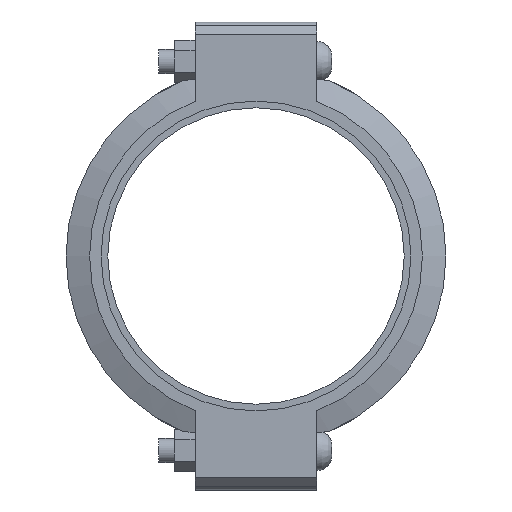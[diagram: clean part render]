
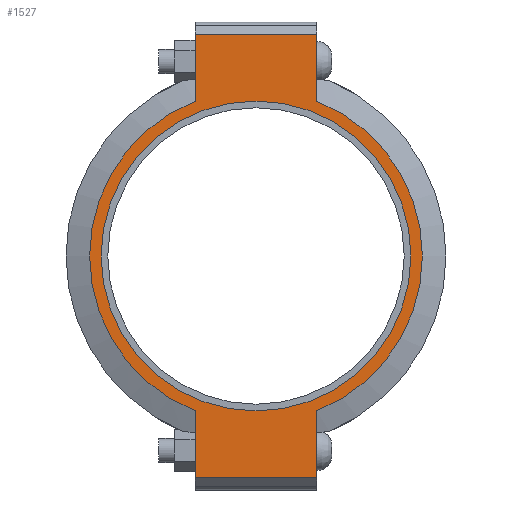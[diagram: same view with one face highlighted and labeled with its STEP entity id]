
A CAD part, left-side view. The second image highlights one B-rep face of the part: STEP entity #1527.
In plain terms, the highlighted planar face has unit normal (-1, 0, 0) as drawn and (0, 0, 1) by its records, which use the part's own axes.
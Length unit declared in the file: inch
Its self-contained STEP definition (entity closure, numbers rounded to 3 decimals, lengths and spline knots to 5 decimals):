
#154=LINE('',#2603,#241);
#165=LINE('',#2654,#252);
#171=LINE('',#2680,#258);
#173=LINE('',#2683,#260);
#174=LINE('',#2688,#261);
#175=LINE('',#2689,#262);
#241=VECTOR('',#2105,0.3937);
#252=VECTOR('',#2136,0.3937);
#258=VECTOR('',#2154,0.3937);
#260=VECTOR('',#2158,0.3937);
#261=VECTOR('',#2163,0.3937);
#262=VECTOR('',#2164,0.3937);
#320=FACE_BOUND('',#479,.T.);
#380=FACE_OUTER_BOUND('',#478,.T.);
#478=EDGE_LOOP('',(#1216,#1217,#1218,#1219,#1220,#1221,#1222,#1223));
#479=EDGE_LOOP('',(#1224));
#584=CIRCLE('',#1772,6.84375);
#585=CIRCLE('',#1773,6.84375);
#586=CIRCLE('',#1774,6.375);
#693=VERTEX_POINT('',#2600);
#694=VERTEX_POINT('',#2602);
#711=VERTEX_POINT('',#2649);
#712=VERTEX_POINT('',#2653);
#719=VERTEX_POINT('',#2675);
#720=VERTEX_POINT('',#2679);
#721=VERTEX_POINT('',#2685);
#722=VERTEX_POINT('',#2687);
#723=VERTEX_POINT('',#2691);
#863=EDGE_CURVE('',#694,#693,#154,.T.);
#884=EDGE_CURVE('',#712,#711,#165,.T.);
#895=EDGE_CURVE('',#720,#719,#171,.T.);
#897=EDGE_CURVE('',#720,#693,#173,.T.);
#898=EDGE_CURVE('',#719,#721,#584,.T.);
#899=EDGE_CURVE('',#721,#722,#174,.T.);
#900=EDGE_CURVE('',#712,#722,#175,.T.);
#901=EDGE_CURVE('',#711,#694,#585,.T.);
#902=EDGE_CURVE('',#723,#723,#586,.T.);
#1216=ORIENTED_EDGE('',*,*,#897,.F.);
#1217=ORIENTED_EDGE('',*,*,#895,.T.);
#1218=ORIENTED_EDGE('',*,*,#898,.T.);
#1219=ORIENTED_EDGE('',*,*,#899,.T.);
#1220=ORIENTED_EDGE('',*,*,#900,.F.);
#1221=ORIENTED_EDGE('',*,*,#884,.T.);
#1222=ORIENTED_EDGE('',*,*,#901,.T.);
#1223=ORIENTED_EDGE('',*,*,#863,.T.);
#1224=ORIENTED_EDGE('',*,*,#902,.T.);
#1379=PLANE('',#1771);
#1527=ADVANCED_FACE('',(#380,#320),#1379,.T.);
#1771=AXIS2_PLACEMENT_3D('',#2684,#2159,#2160);
#1772=AXIS2_PLACEMENT_3D('',#2686,#2161,#2162);
#1773=AXIS2_PLACEMENT_3D('',#2690,#2165,#2166);
#1774=AXIS2_PLACEMENT_3D('',#2692,#2167,#2168);
#2105=DIRECTION('',(-1.,0.,0.));
#2136=DIRECTION('',(-1.,0.,0.));
#2154=DIRECTION('',(1.,0.,0.));
#2158=DIRECTION('',(0.,1.,0.));
#2159=DIRECTION('center_axis',(0.,0.,1.));
#2160=DIRECTION('ref_axis',(1.,0.,0.));
#2161=DIRECTION('center_axis',(0.,0.,1.));
#2162=DIRECTION('ref_axis',(-1.,0.,0.));
#2163=DIRECTION('',(1.,0.,0.));
#2164=DIRECTION('',(0.,-1.,0.));
#2165=DIRECTION('center_axis',(0.,0.,1.));
#2166=DIRECTION('ref_axis',(-1.,0.,0.));
#2167=DIRECTION('center_axis',(0.,0.,-1.));
#2168=DIRECTION('ref_axis',(-1.,0.,0.));
#2600=CARTESIAN_POINT('',(-9.125,2.5,1.315));
#2602=CARTESIAN_POINT('',(-6.37079,2.5,1.315));
#2603=CARTESIAN_POINT('',(9.625,2.5,1.315));
#2649=CARTESIAN_POINT('',(6.37079,2.5,1.315));
#2653=CARTESIAN_POINT('',(9.125,2.5,1.315));
#2654=CARTESIAN_POINT('',(9.625,2.5,1.315));
#2675=CARTESIAN_POINT('',(-6.37079,-2.5,1.315));
#2679=CARTESIAN_POINT('',(-9.125,-2.5,1.315));
#2680=CARTESIAN_POINT('',(-9.625,-2.5,1.315));
#2683=CARTESIAN_POINT('',(-9.125,1.25,1.315));
#2684=CARTESIAN_POINT('Origin',(0.,0.,
1.315));
#2685=CARTESIAN_POINT('',(6.37079,-2.5,1.315));
#2686=CARTESIAN_POINT('Origin',(0.,0.,1.315));
#2687=CARTESIAN_POINT('',(9.125,-2.5,1.315));
#2688=CARTESIAN_POINT('',(-9.625,-2.5,1.315));
#2689=CARTESIAN_POINT('',(9.125,-1.25,1.315));
#2690=CARTESIAN_POINT('Origin',(0.,0.,1.315));
#2691=CARTESIAN_POINT('',(6.375,0.,1.315));
#2692=CARTESIAN_POINT('Origin',(0.,0.,1.315));
